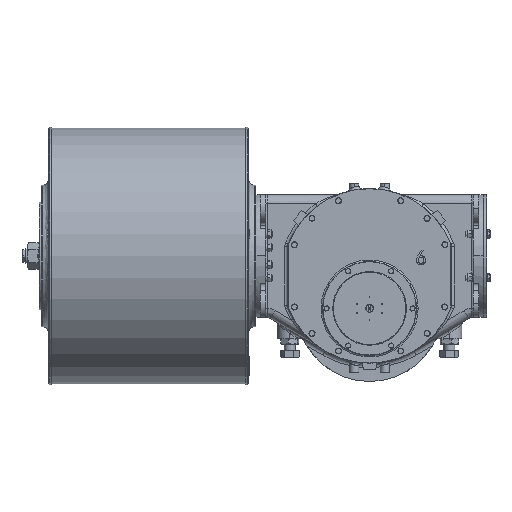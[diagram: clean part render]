
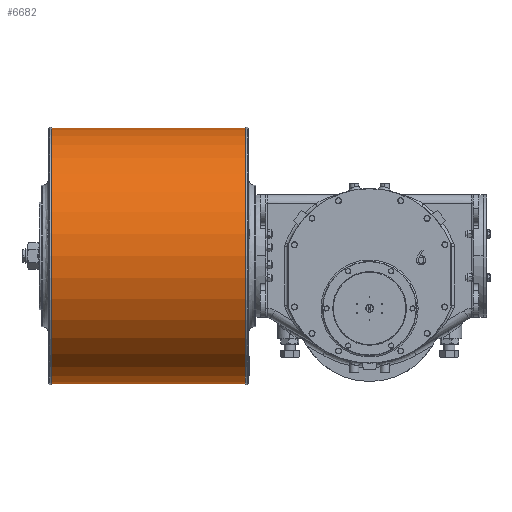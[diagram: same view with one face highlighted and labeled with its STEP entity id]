
A CAD part, top view. The second image highlights one B-rep face of the part: STEP entity #6682.
In plain terms, the highlighted cylindrical face has radius 416 mm (diameter 832 mm), a partial arc.
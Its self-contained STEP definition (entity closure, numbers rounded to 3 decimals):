
#273 = VERTEX_POINT ( 'NONE', #73580 ) ;
#2361 = DIRECTION ( 'NONE',  ( -1., 0., 0. ) ) ;
#3186 = AXIS2_PLACEMENT_3D ( 'NONE', #24354, #36636, #8654 ) ;
#6682 = ADVANCED_FACE ( 'NONE', ( #14278 ), #24417, .T. ) ;
#8654 = DIRECTION ( 'NONE',  ( 0., -1., 0. ) ) ;
#10523 = CARTESIAN_POINT ( 'NONE',  ( -405., 587., 138. ) ) ;
#13161 = CARTESIAN_POINT ( 'NONE',  ( -405., -245., 138. ) ) ;
#14278 = FACE_OUTER_BOUND ( 'NONE', #46963, .T. ) ;
#14526 = AXIS2_PLACEMENT_3D ( 'NONE', #35989, #58757, #24772 ) ;
#15070 = EDGE_CURVE ( 'NONE', #68845, #68994, #63989, .T. ) ;
#15761 = LINE ( 'NONE', #20977, #50334 ) ;
#19578 = LINE ( 'NONE', #30760, #22826 ) ;
#20977 = CARTESIAN_POINT ( 'NONE',  ( -405., 587., 138. ) ) ;
#22826 = VECTOR ( 'NONE', #2361, 1000. ) ;
#24354 = CARTESIAN_POINT ( 'NONE',  ( -405., 171., 138. ) ) ;
#24417 = CYLINDRICAL_SURFACE ( 'NONE', #14526, 416. ) ;
#24772 = DIRECTION ( 'NONE',  ( 0., -1., 0. ) ) ;
#30658 = CIRCLE ( 'NONE', #46154, 416. ) ;
#30760 = CARTESIAN_POINT ( 'NONE',  ( -405., -245., 138. ) ) ;
#31808 = DIRECTION ( 'NONE',  ( -1., 0., 0. ) ) ;
#32163 = ORIENTED_EDGE ( 'NONE', *, *, #41470, .T. ) ;
#35399 = ORIENTED_EDGE ( 'NONE', *, *, #73565, .F. ) ;
#35989 = CARTESIAN_POINT ( 'NONE',  ( -405., 171., 138. ) ) ;
#36636 = DIRECTION ( 'NONE',  ( -1., 0., 0. ) ) ;
#39593 = CARTESIAN_POINT ( 'NONE',  ( -1035., 171., 138. ) ) ;
#41284 = DIRECTION ( 'NONE',  ( 0., -1., 0. ) ) ;
#41470 = EDGE_CURVE ( 'NONE', #273, #50449, #30658, .T. ) ;
#46154 = AXIS2_PLACEMENT_3D ( 'NONE', #39593, #64066, #41284 ) ;
#46963 = EDGE_LOOP ( 'NONE', ( #54674, #47135, #32163, #35399 ) ) ;
#47135 = ORIENTED_EDGE ( 'NONE', *, *, #49907, .T. ) ;
#49907 = EDGE_CURVE ( 'NONE', #68994, #273, #15761, .T. ) ;
#50334 = VECTOR ( 'NONE', #31808, 1000. ) ;
#50449 = VERTEX_POINT ( 'NONE', #63422 ) ;
#54674 = ORIENTED_EDGE ( 'NONE', *, *, #15070, .T. ) ;
#58757 = DIRECTION ( 'NONE',  ( -1., 0., 0. ) ) ;
#63422 = CARTESIAN_POINT ( 'NONE',  ( -1035., -245., 138. ) ) ;
#63989 = CIRCLE ( 'NONE', #3186, 416. ) ;
#64066 = DIRECTION ( 'NONE',  ( 1., 0., 0. ) ) ;
#68845 = VERTEX_POINT ( 'NONE', #13161 ) ;
#68994 = VERTEX_POINT ( 'NONE', #10523 ) ;
#73565 = EDGE_CURVE ( 'NONE', #68845, #50449, #19578, .T. ) ;
#73580 = CARTESIAN_POINT ( 'NONE',  ( -1035., 587., 138. ) ) ;
